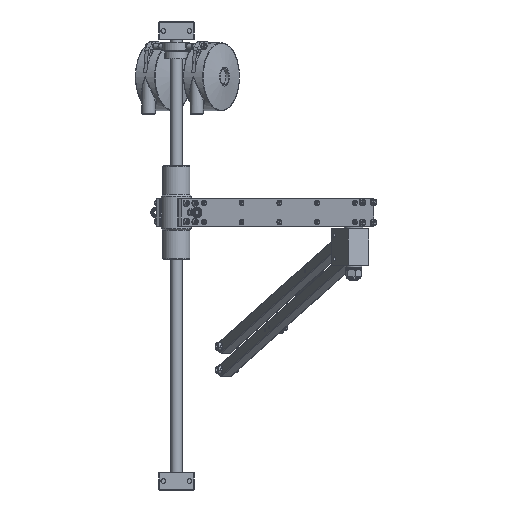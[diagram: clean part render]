
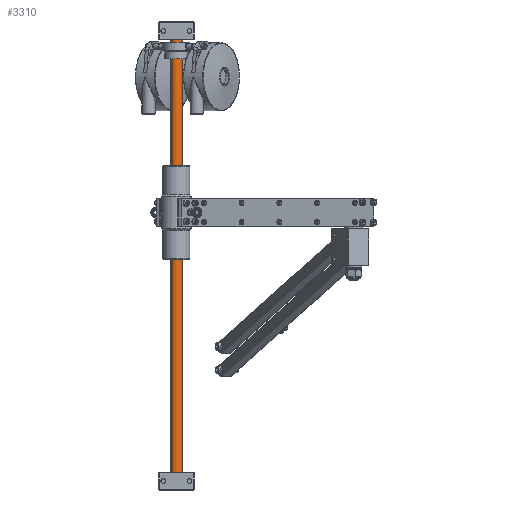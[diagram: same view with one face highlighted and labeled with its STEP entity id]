
A CAD part, left-side view. The second image highlights one B-rep face of the part: STEP entity #3310.
In plain terms, the highlighted cylindrical face has radius 12.5 mm (diameter 25 mm), a full revolution.
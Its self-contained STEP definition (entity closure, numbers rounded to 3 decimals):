
#3310 = ADVANCED_FACE( '', ( #7005, #7006 ), #7007, .T. );
#7005 = FACE_OUTER_BOUND( '', #12466, .T. );
#7006 = FACE_OUTER_BOUND( '', #12467, .T. );
#7007 = CYLINDRICAL_SURFACE( '', #12468, 12.5 );
#12466 = EDGE_LOOP( '', ( #18892 ) );
#12467 = EDGE_LOOP( '', ( #18893 ) );
#12468 = AXIS2_PLACEMENT_3D( '', #18894, #18895, #18896 );
#18892 = ORIENTED_EDGE( '', *, *, #30575, .T. );
#18893 = ORIENTED_EDGE( '', *, *, #30576, .T. );
#18894 = CARTESIAN_POINT( '', ( -20.429, 30.578, -1000. ) );
#18895 = DIRECTION( '', ( 0., 0., -1. ) );
#18896 = DIRECTION( '', ( 1., 0., 0. ) );
#30575 = EDGE_CURVE( '', #35385, #35385, #35386, .F. );
#30576 = EDGE_CURVE( '', #35387, #35387, #35388, .T. );
#35385 = VERTEX_POINT( '', #42601 );
#35386 = CIRCLE( '', #42602, 12.5 );
#35387 = VERTEX_POINT( '', #42603 );
#35388 = CIRCLE( '', #42604, 12.5 );
#42601 = CARTESIAN_POINT( '', ( -32.929, 30.578, -999.5 ) );
#42602 = AXIS2_PLACEMENT_3D( '', #52780, #52781, #52782 );
#42603 = CARTESIAN_POINT( '', ( -32.929, 30.578, -0.5 ) );
#42604 = AXIS2_PLACEMENT_3D( '', #52783, #52784, #52785 );
#52780 = CARTESIAN_POINT( '', ( -20.429, 30.578, -999.5 ) );
#52781 = DIRECTION( '', ( 0., 0., -1. ) );
#52782 = DIRECTION( '', ( -1., 0., 0. ) );
#52783 = CARTESIAN_POINT( '', ( -20.429, 30.578, -0.5 ) );
#52784 = DIRECTION( '', ( 0., 0., -1. ) );
#52785 = DIRECTION( '', ( -1., 0., 0. ) );
